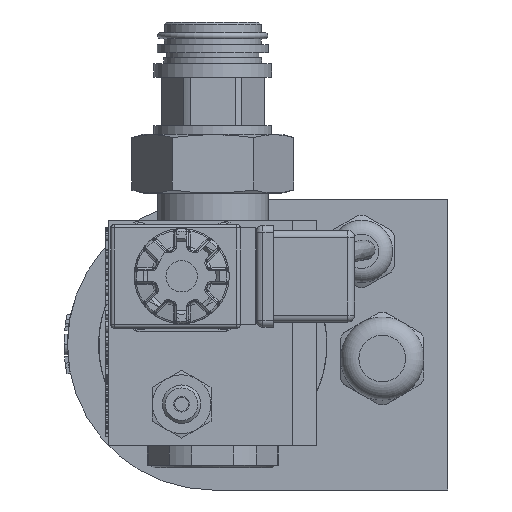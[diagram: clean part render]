
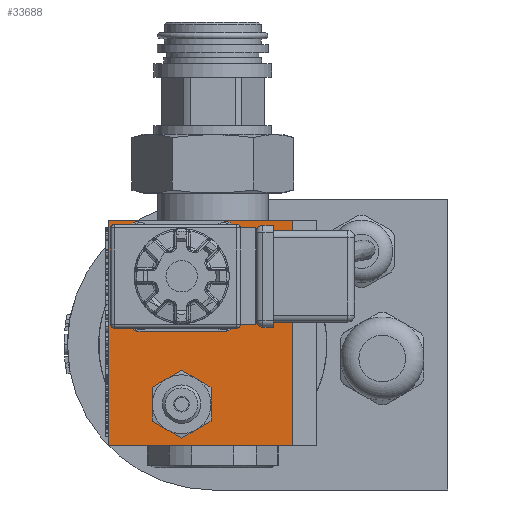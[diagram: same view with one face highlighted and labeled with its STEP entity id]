
A CAD part, left-side view. The second image highlights one B-rep face of the part: STEP entity #33688.
In plain terms, the highlighted planar face has unit normal (-1, 0, 0).
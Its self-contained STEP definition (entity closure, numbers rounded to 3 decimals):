
#693=FACE_BOUND('',#11587,.T.);
#694=FACE_BOUND('',#11588,.T.);
#3533=LINE('',#56706,#6316);
#3535=LINE('',#56720,#6318);
#3537=LINE('',#56732,#6320);
#3539=LINE('',#56744,#6322);
#3553=LINE('',#58015,#6336);
#3554=LINE('',#58017,#6337);
#3555=LINE('',#58019,#6338);
#3556=LINE('',#58020,#6339);
#6316=VECTOR('',#39958,10.);
#6318=VECTOR('',#39974,10.);
#6320=VECTOR('',#39988,10.);
#6322=VECTOR('',#40002,10.);
#6336=VECTOR('',#40288,10.);
#6337=VECTOR('',#40289,10.);
#6338=VECTOR('',#40290,10.);
#6339=VECTOR('',#40291,10.);
#9617=FACE_OUTER_BOUND('',#11586,.T.);
#11586=EDGE_LOOP('',(#25136,#25137,#25138,#25139));
#11587=EDGE_LOOP('',(#25140,#25141,#25142,#25143,#25144,#25145));
#11588=EDGE_LOOP('',(#25146,#25147,#25148,#25149,#25150,#25151,#25152,#25153));
#13679=CIRCLE('',#36135,3.975);
#13683=CIRCLE('',#36141,3.975);
#13687=CIRCLE('',#36147,3.975);
#13691=CIRCLE('',#36153,3.975);
#13766=CIRCLE('',#36287,8.5);
#13767=CIRCLE('',#36288,8.5);
#13768=CIRCLE('',#36289,8.5);
#13769=CIRCLE('',#36290,8.5);
#13770=CIRCLE('',#36291,8.5);
#13771=CIRCLE('',#36292,8.5);
#14737=VERTEX_POINT('',#56704);
#14738=VERTEX_POINT('',#56705);
#14741=VERTEX_POINT('',#56713);
#14743=VERTEX_POINT('',#56719);
#14745=VERTEX_POINT('',#56725);
#14747=VERTEX_POINT('',#56731);
#14749=VERTEX_POINT('',#56737);
#14751=VERTEX_POINT('',#56743);
#14816=VERTEX_POINT('',#58013);
#14817=VERTEX_POINT('',#58014);
#14818=VERTEX_POINT('',#58016);
#14819=VERTEX_POINT('',#58018);
#14820=VERTEX_POINT('',#58021);
#14821=VERTEX_POINT('',#58022);
#14822=VERTEX_POINT('',#58024);
#14823=VERTEX_POINT('',#58026);
#14824=VERTEX_POINT('',#58028);
#14825=VERTEX_POINT('',#58030);
#18487=EDGE_CURVE('',#14737,#14738,#3533,.T.);
#18491=EDGE_CURVE('',#14738,#14741,#13679,.T.);
#18494=EDGE_CURVE('',#14741,#14743,#3535,.T.);
#18497=EDGE_CURVE('',#14743,#14745,#13683,.T.);
#18500=EDGE_CURVE('',#14745,#14747,#3537,.T.);
#18503=EDGE_CURVE('',#14747,#14749,#13687,.T.);
#18506=EDGE_CURVE('',#14749,#14751,#3539,.T.);
#18509=EDGE_CURVE('',#14751,#14737,#13691,.T.);
#18642=EDGE_CURVE('',#14816,#14817,#3553,.T.);
#18643=EDGE_CURVE('',#14816,#14818,#3554,.T.);
#18644=EDGE_CURVE('',#14818,#14819,#3555,.T.);
#18645=EDGE_CURVE('',#14819,#14817,#3556,.T.);
#18646=EDGE_CURVE('',#14820,#14821,#13766,.T.);
#18647=EDGE_CURVE('',#14821,#14822,#13767,.T.);
#18648=EDGE_CURVE('',#14822,#14823,#13768,.T.);
#18649=EDGE_CURVE('',#14823,#14824,#13769,.T.);
#18650=EDGE_CURVE('',#14824,#14825,#13770,.T.);
#18651=EDGE_CURVE('',#14825,#14820,#13771,.T.);
#25136=ORIENTED_EDGE('',*,*,#18642,.F.);
#25137=ORIENTED_EDGE('',*,*,#18643,.T.);
#25138=ORIENTED_EDGE('',*,*,#18644,.T.);
#25139=ORIENTED_EDGE('',*,*,#18645,.T.);
#25140=ORIENTED_EDGE('',*,*,#18646,.T.);
#25141=ORIENTED_EDGE('',*,*,#18647,.T.);
#25142=ORIENTED_EDGE('',*,*,#18648,.T.);
#25143=ORIENTED_EDGE('',*,*,#18649,.T.);
#25144=ORIENTED_EDGE('',*,*,#18650,.T.);
#25145=ORIENTED_EDGE('',*,*,#18651,.T.);
#25146=ORIENTED_EDGE('',*,*,#18487,.T.);
#25147=ORIENTED_EDGE('',*,*,#18491,.T.);
#25148=ORIENTED_EDGE('',*,*,#18494,.T.);
#25149=ORIENTED_EDGE('',*,*,#18497,.T.);
#25150=ORIENTED_EDGE('',*,*,#18500,.T.);
#25151=ORIENTED_EDGE('',*,*,#18503,.T.);
#25152=ORIENTED_EDGE('',*,*,#18506,.T.);
#25153=ORIENTED_EDGE('',*,*,#18509,.T.);
#32239=PLANE('',#36286);
#33688=ADVANCED_FACE('',(#9617,#693,#694),#32239,.T.);
#36135=AXIS2_PLACEMENT_3D('',#56714,#39966,#39967);
#36141=AXIS2_PLACEMENT_3D('',#56726,#39980,#39981);
#36147=AXIS2_PLACEMENT_3D('',#56738,#39994,#39995);
#36153=AXIS2_PLACEMENT_3D('',#56749,#40008,#40009);
#36286=AXIS2_PLACEMENT_3D('',#58012,#40286,#40287);
#36287=AXIS2_PLACEMENT_3D('',#58023,#40292,#40293);
#36288=AXIS2_PLACEMENT_3D('',#58025,#40294,#40295);
#36289=AXIS2_PLACEMENT_3D('',#58027,#40296,#40297);
#36290=AXIS2_PLACEMENT_3D('',#58029,#40298,#40299);
#36291=AXIS2_PLACEMENT_3D('',#58031,#40300,#40301);
#36292=AXIS2_PLACEMENT_3D('',#58032,#40302,#40303);
#39958=DIRECTION('',(0.,0.,1.));
#39966=DIRECTION('center_axis',(1.,0.,0.));
#39967=DIRECTION('ref_axis',(0.,0.,-1.));
#39974=DIRECTION('',(0.,-1.,0.));
#39980=DIRECTION('center_axis',(1.,0.,0.));
#39981=DIRECTION('ref_axis',(0.,0.,-1.));
#39988=DIRECTION('',(0.,0.,-1.));
#39994=DIRECTION('center_axis',(1.,0.,0.));
#39995=DIRECTION('ref_axis',(0.,0.,-1.));
#40002=DIRECTION('',(0.,1.,0.));
#40008=DIRECTION('center_axis',(1.,0.,0.));
#40009=DIRECTION('ref_axis',(0.,0.,-1.));
#40286=DIRECTION('center_axis',(-1.,0.,0.));
#40287=DIRECTION('ref_axis',(0.,0.,1.));
#40288=DIRECTION('',(0.,0.,-1.));
#40289=DIRECTION('',(0.,1.,0.));
#40290=DIRECTION('',(0.,0.,-1.));
#40291=DIRECTION('',(0.,-1.,0.));
#40292=DIRECTION('center_axis',(1.,0.,0.));
#40293=DIRECTION('ref_axis',(0.,0.,
1.));
#40294=DIRECTION('center_axis',(1.,0.,0.));
#40295=DIRECTION('ref_axis',(0.,0.,
1.));
#40296=DIRECTION('center_axis',(1.,0.,0.));
#40297=DIRECTION('ref_axis',(0.,0.,
1.));
#40298=DIRECTION('center_axis',(1.,0.,0.));
#40299=DIRECTION('ref_axis',(0.,0.,
1.));
#40300=DIRECTION('center_axis',(1.,0.,0.));
#40301=DIRECTION('ref_axis',(0.,0.,
1.));
#40302=DIRECTION('center_axis',(1.,0.,0.));
#40303=DIRECTION('ref_axis',(0.,0.,
1.));
#56704=CARTESIAN_POINT('',(-28.,54.475,37.));
#56705=CARTESIAN_POINT('',(-28.,54.475,61.));
#56706=CARTESIAN_POINT('',(-28.,54.475,36.52));
#56713=CARTESIAN_POINT('',(-28.,50.5,64.975));
#56714=CARTESIAN_POINT('Origin',(-28.,50.5,61.));
#56719=CARTESIAN_POINT('',(-28.,26.5,64.975));
#56720=CARTESIAN_POINT('',(-28.,50.98,64.975));
#56725=CARTESIAN_POINT('',(-28.,22.525,61.));
#56726=CARTESIAN_POINT('Origin',(-28.,26.5,61.));
#56731=CARTESIAN_POINT('',(-28.,22.525,37.));
#56732=CARTESIAN_POINT('',(-28.,22.525,61.48));
#56737=CARTESIAN_POINT('',(-28.,26.5,33.025));
#56738=CARTESIAN_POINT('Origin',(-28.,26.5,37.));
#56743=CARTESIAN_POINT('',(-28.,50.5,33.025));
#56744=CARTESIAN_POINT('',(-28.,26.02,33.025));
#56749=CARTESIAN_POINT('Origin',(-28.,50.5,37.));
#58012=CARTESIAN_POINT('Origin',(-28.,29.5,32.5));
#58013=CARTESIAN_POINT('',(-28.,6.5,65.));
#58014=CARTESIAN_POINT('',(-28.,6.5,0.));
#58015=CARTESIAN_POINT('',(-28.,6.5,32.5));
#58016=CARTESIAN_POINT('',(-28.,59.5,65.));
#58017=CARTESIAN_POINT('',(-28.,-0.5,65.));
#58018=CARTESIAN_POINT('',(-28.,59.5,0.));
#58019=CARTESIAN_POINT('',(-28.,59.5,65.));
#58020=CARTESIAN_POINT('',(-28.,59.5,0.));
#58021=CARTESIAN_POINT('',(-28.,42.75,4.639));
#58022=CARTESIAN_POINT('',(-28.,47.,12.));
#58023=CARTESIAN_POINT('Origin',(-28.,38.5,12.));
#58024=CARTESIAN_POINT('',(-28.,42.75,19.361));
#58025=CARTESIAN_POINT('Origin',(-28.,38.5,12.));
#58026=CARTESIAN_POINT('',(-28.,34.25,19.361));
#58027=CARTESIAN_POINT('Origin',(-28.,38.5,12.));
#58028=CARTESIAN_POINT('',(-28.,30.,12.));
#58029=CARTESIAN_POINT('Origin',(-28.,38.5,12.));
#58030=CARTESIAN_POINT('',(-28.,34.25,4.639));
#58031=CARTESIAN_POINT('Origin',(-28.,38.5,12.));
#58032=CARTESIAN_POINT('Origin',(-28.,38.5,12.));
